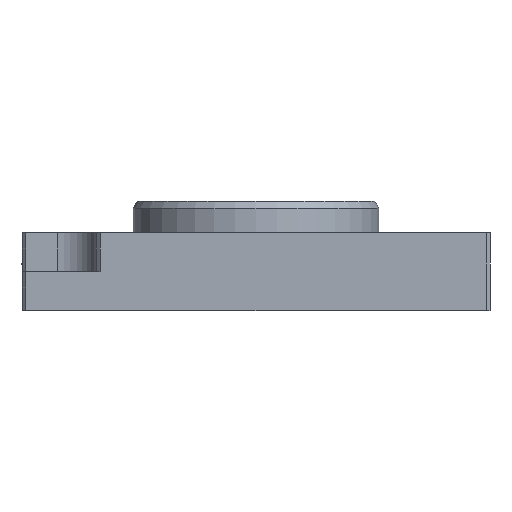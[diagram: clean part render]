
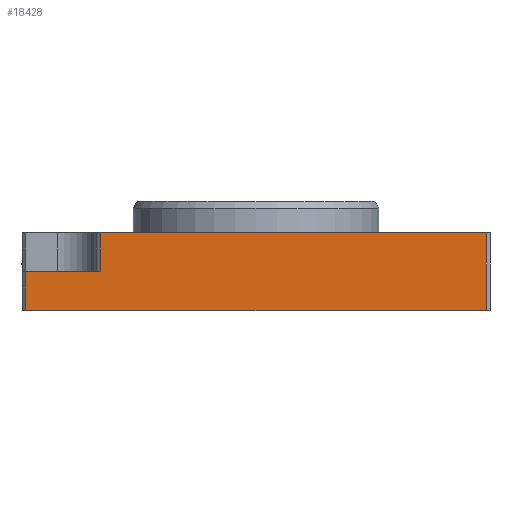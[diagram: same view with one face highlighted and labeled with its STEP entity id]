
A CAD part, left-side view. The second image highlights one B-rep face of the part: STEP entity #18428.
In plain terms, the highlighted planar face has unit normal (-1, 0, 0).
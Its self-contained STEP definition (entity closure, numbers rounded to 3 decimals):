
#18108=CARTESIAN_POINT('',(-38.0,20.0,10.0));
#18109=VERTEX_POINT('',#18108);
#18116=CARTESIAN_POINT('',(-38.0,-29.5,10.0));
#18117=VERTEX_POINT('',#18116);
#18118=CARTESIAN_POINT('',(-38.0,-29.5,10.0));
#18119=DIRECTION('',(0.0,1.0,0.0));
#18120=VECTOR('',#18119,49.5);
#18121=LINE('',#18118,#18120);
#18122=EDGE_CURVE('',#18117,#18109,#18121,.T.);
#18372=CARTESIAN_POINT('',(-38.0,20.0,5.0));
#18373=VERTEX_POINT('',#18372);
#18380=CARTESIAN_POINT('',(-38.0,20.0,5.0));
#18381=DIRECTION('',(0.0,0.0,1.0));
#18382=VECTOR('',#18381,5.0);
#18383=LINE('',#18380,#18382);
#18384=EDGE_CURVE('',#18373,#18109,#18383,.T.);
#18389=CARTESIAN_POINT('',(-38.0,-30.,0.0));
#18390=DIRECTION('',(-1.0,0.0,0.0));
#18391=DIRECTION('',(0.0,0.0,1.0));
#18392=AXIS2_PLACEMENT_3D('',#18389,#18390,#18391);
#18393=PLANE('',#18392);
#18394=ORIENTED_EDGE('',*,*,#18384,.F.);
#18395=CARTESIAN_POINT('',(-38.0,29.5,5.0));
#18396=VERTEX_POINT('',#18395);
#18397=CARTESIAN_POINT('',(-38.0,29.5,5.0));
#18398=DIRECTION('',(0.0,-1.0,0.0));
#18399=VECTOR('',#18398,9.5);
#18400=LINE('',#18397,#18399);
#18401=EDGE_CURVE('',#18396,#18373,#18400,.T.);
#18402=ORIENTED_EDGE('',*,*,#18401,.F.);
#18403=CARTESIAN_POINT('',(-38.0,29.5,0.0));
#18404=VERTEX_POINT('',#18403);
#18405=CARTESIAN_POINT('',(-38.0,29.5,0.0));
#18406=DIRECTION('',(0.0,0.0,1.0));
#18407=VECTOR('',#18406,5.0);
#18408=LINE('',#18405,#18407);
#18409=EDGE_CURVE('',#18404,#18396,#18408,.T.);
#18410=ORIENTED_EDGE('',*,*,#18409,.F.);
#18411=CARTESIAN_POINT('',(-38.0,-29.5,0.0));
#18412=VERTEX_POINT('',#18411);
#18413=CARTESIAN_POINT('',(-38.0,29.5,0.0));
#18414=DIRECTION('',(0.0,-1.0,0.0));
#18415=VECTOR('',#18414,59.);
#18416=LINE('',#18413,#18415);
#18417=EDGE_CURVE('',#18404,#18412,#18416,.T.);
#18418=ORIENTED_EDGE('',*,*,#18417,.T.);
#18419=CARTESIAN_POINT('',(-38.0,-29.5,10.0));
#18420=DIRECTION('',(0.0,0.0,-1.0));
#18421=VECTOR('',#18420,10.0);
#18422=LINE('',#18419,#18421);
#18423=EDGE_CURVE('',#18117,#18412,#18422,.T.);
#18424=ORIENTED_EDGE('',*,*,#18423,.F.);
#18425=ORIENTED_EDGE('',*,*,#18122,.T.);
#18426=EDGE_LOOP('',(#18394,#18402,#18410,#18418,#18424,#18425));
#18427=FACE_OUTER_BOUND('',#18426,.T.);
#18428=ADVANCED_FACE('',(#18427),#18393,.T.);
